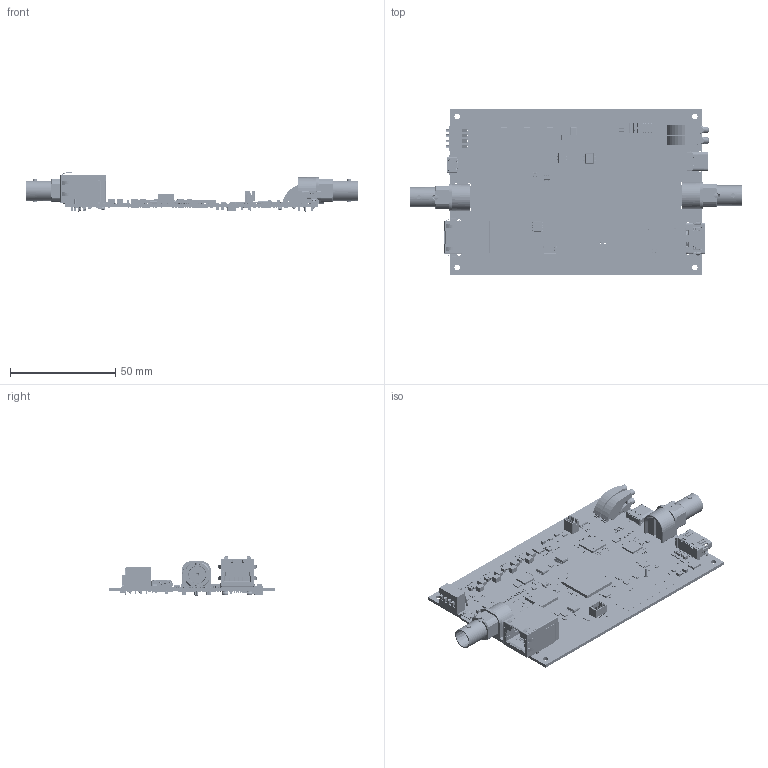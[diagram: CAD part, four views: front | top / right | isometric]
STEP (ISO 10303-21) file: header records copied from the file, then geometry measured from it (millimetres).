
FILE_DESCRIPTION( ( 'Unknown' ), '1' );
FILE_NAME( 'Q:/2003/Product3DCADModels/mm-ap24c01-0088-0201.stp', 'Unknown', ( 'Unknown' ), ( 'Unknown' ), 'PSStep 17.0.49', 'Unknown', ' ' );
FILE_SCHEMA( ( 'AUTOMOTIVE_DESIGN { 1 0 10303 214 1 1 1 1 }' ) );
Length unit declared in the file: millimetre
Products named in the file (607): Body.step; Open_CASCADE_STEP_translator_6.8_2.2.1.step; 1627256848.step; ball.step; Open_CASCADE_STEP_translator_6.8_2.1.step; U1.step; Pin_Shape-3; Open_CASCADE_STEP_translator_6.8_12.4.1; Body-1; Open_CASCADE_STEP_translator_6.8_14.2.1; Body-4; Open_CASCADE_STEP_translator_6.8_4.2.1; Body; Open_CASCADE_STEP_translator_6.8_2.2.1; Body-2; Open_CASCADE_STEP_translator_6.8_17.2.1; Pin_Shape; Open_CASCADE_STEP_translator_6.8_14.4.1; Pin_Shape-2; L3-918.step; Pin_Shape-1; Open_CASCADE_STEP_translator_6.8_17.4.1; Body-5; Open_CASCADE_STEP_translator_6.8_12.2.1; Body-3; 6488058480; Extruded; 6489381664; 5973241952; 473461001; Open CASCADE STEP translator 6.8 4.185.1.1; 6161514960; ball; Open_CASCADE_STEP_translator_6.8_4.1; 5961290896; 5961291616; 6401655408; 6437571376; Thermal_Shape; Open_CASCADE_STEP_translator_6.8_14.1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
Assembly tree (2286 placements, depth 8):
  Assem1
    Board
      Open CASCADE STEP translator 6.8 4.1.1
    L11
      Coilcraft-0603USB
    U12
      6437571456
        ball  x49
        Open_CASCADE_STEP_translator_6.8_2.1
        Body
          Open_CASCADE_STEP_translator_6.8_2.2.1
    SP12
      6489385824
        Extruded
    LED2
      5961291616
        Extruded
      5961291296
        Extruded
      5961290896
        Extruded
      5961290576
        Extruded
    J7
      CUI_INC_UJ31-CH-G1-SMT-TR
    L6
      Coilcraft-0805USB
    C28
      6392012352
        Extruded
    C27
      6392012352
        Extruded
    R38
      CR1005-0402
      CR1005-0402
      CR1005-0402
      CR1005-0402
    R37
      CR1005-0402
      CR1005-0402
      CR1005-0402
      CR1005-0402
    R36
      CR1005-0402
      CR1005-0402
      CR1005-0402
      CR1005-0402
    R35
      CR1005-0402
      CR1005-0402
      CR1005-0402
      CR1005-0402
    R33
      CR1005-0402
      CR1005-0402
      CR1005-0402
      CR1005-0402
    U1
      L3-918
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Bounding box: 157.8 x 79 x 18.79 mm (x, y, z)
Surface area: 37606.3 mm2 (no closed solid volume)
Topology: 0 solids, 19972 shells, 19972 faces, 99158 edges, 98246 vertices
Faces by surface type: plane 16944, cylinder 1842, sphere 760, torus 164, cone 102, bspline 77, extrusion 74, revolution 9
Full cylindrical faces by diameter (mm): 0.023 x14, 0.164 x7, 0.256 x1, 0.4 x12, 0.432 x4, 0.5 x1, 0.519 x1, 0.527 x1, 0.6 x2, 0.7 x4, 0.75 x1, 0.8 x12, 0.9 x8, 1 x4, 1.1 x1, 1.137 x1, 1.3 x8, 1.375 x1, 1.42 x2, 1.5 x2, 1.575 x4, 1.6 x2, 1.78 x1, 1.8 x8, 2 x4, 2.1 x4, 2.125 x1, 2.5 x2, 2.7 x4, 3.099 x4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
Entity records: 435392 total; most frequent: CARTESIAN_POINT 94889, DIRECTION 57686, VERTEX_POINT 35386, ORIENTED_EDGE 35372, EDGE_CURVE 35372, VECTOR 29119, LINE 29054, AXIS2_PLACEMENT_3D 14279
